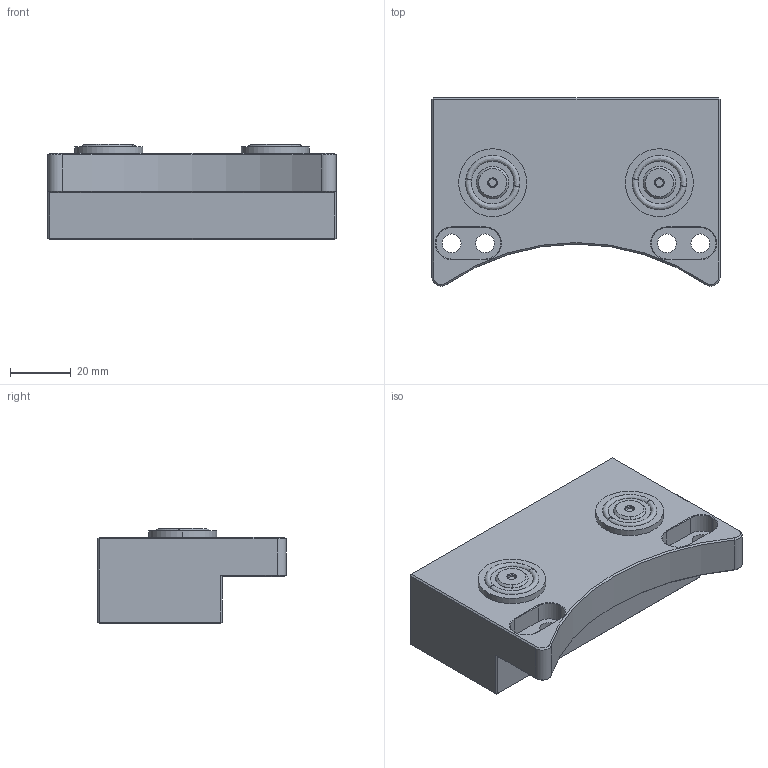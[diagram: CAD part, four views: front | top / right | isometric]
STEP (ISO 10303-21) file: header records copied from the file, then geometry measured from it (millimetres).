
FILE_DESCRIPTION (( 'STEP AP203' ), '1' );
FILE_NAME ('水路模块机器人侧.STEP', '2025-01-22T00:29:55', ( 'Windows User' ), ( 'P R C' ), 'SwSTEP 2.0', 'SolidWorks 2018', '' );
FILE_SCHEMA (( 'CONFIG_CONTROL_DESIGN' ));
Length unit declared in the file: millimetre
Products named in the file (1): 水路模块机器人侧
Bounding box: 95 x 62.13 x 31.5 mm (x, y, z)
Volume: 114277.8 mm3; surface area: 21972 mm2
Topology: 1 solids, 1 shells, 184 faces, 429 edges, 264 vertices
Faces by surface type: plane 90, cone 36, cylinder 35, bspline 23
Entity records: 6470 total; most frequent: CARTESIAN_POINT 2285, ORIENTED_EDGE 858, DIRECTION 805, EDGE_CURVE 429, LINE 269, VECTOR 269, AXIS2_PLACEMENT_3D 268, VERTEX_POINT 264
